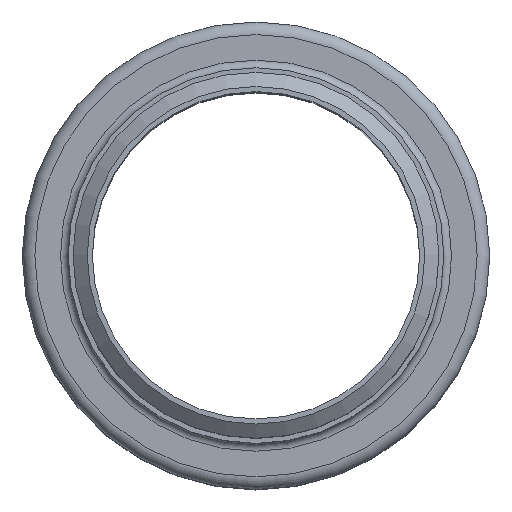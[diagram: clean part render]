
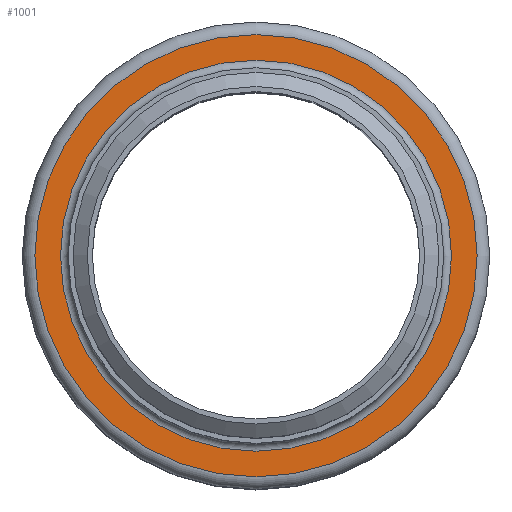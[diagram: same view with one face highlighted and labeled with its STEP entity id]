
A CAD part, top view. The second image highlights one B-rep face of the part: STEP entity #1001.
In plain terms, the highlighted planar face has unit normal (0, 0, 1).
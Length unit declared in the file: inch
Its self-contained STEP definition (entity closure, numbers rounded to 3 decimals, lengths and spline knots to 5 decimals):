
#123=FACE_BOUND('',#304,.T.);
#192=FACE_OUTER_BOUND('',#303,.T.);
#303=EDGE_LOOP('',(#832));
#304=EDGE_LOOP('',(#833));
#424=CIRCLE('',#1220,2.405);
#425=CIRCLE('',#1222,2.72);
#511=VERTEX_POINT('',#1895);
#512=VERTEX_POINT('',#1899);
#622=EDGE_CURVE('',#511,#511,#424,.T.);
#623=EDGE_CURVE('',#512,#512,#425,.T.);
#832=ORIENTED_EDGE('',*,*,#623,.F.);
#833=ORIENTED_EDGE('',*,*,#622,.T.);
#932=PLANE('',#1221);
#1001=ADVANCED_FACE('',(#192,#123),#932,.T.);
#1220=AXIS2_PLACEMENT_3D('',#1897,#1573,#1574);
#1221=AXIS2_PLACEMENT_3D('',#1898,#1575,#1576);
#1222=AXIS2_PLACEMENT_3D('',#1900,#1577,#1578);
#1573=DIRECTION('center_axis',(0.,0.,-1.));
#1574=DIRECTION('ref_axis',(1.,0.,0.));
#1575=DIRECTION('center_axis',(0.,0.,1.));
#1576=DIRECTION('ref_axis',(1.,0.,0.));
#1577=DIRECTION('center_axis',(0.,0.,-1.));
#1578=DIRECTION('ref_axis',(1.,0.,0.));
#1895=CARTESIAN_POINT('',(2.405,0.,-0.095));
#1897=CARTESIAN_POINT('Origin',(0.,0.,-0.095));
#1898=CARTESIAN_POINT('Origin',(0.,2.72,-0.095));
#1899=CARTESIAN_POINT('',(2.72,0.,-0.095));
#1900=CARTESIAN_POINT('Origin',(0.,0.,-0.095));
